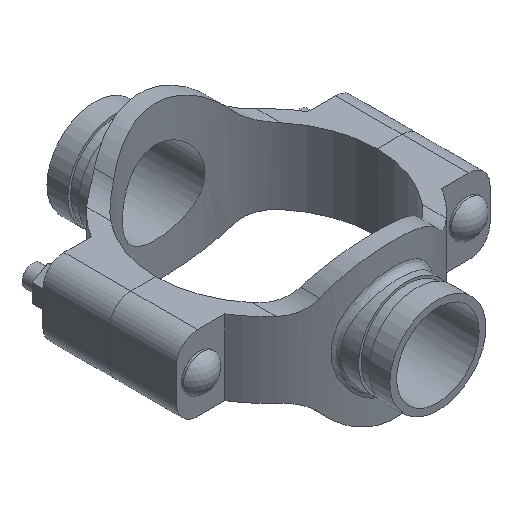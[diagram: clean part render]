
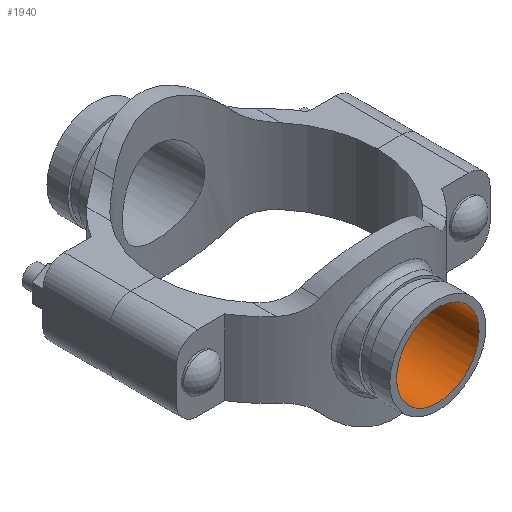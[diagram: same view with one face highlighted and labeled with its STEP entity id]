
A CAD part, isometric view. The second image highlights one B-rep face of the part: STEP entity #1940.
In plain terms, the highlighted cylindrical face has radius 31.369 mm (diameter 62.738 mm), a full revolution.
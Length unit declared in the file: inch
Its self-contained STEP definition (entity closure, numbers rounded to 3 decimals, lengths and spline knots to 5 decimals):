
#48=B_SPLINE_CURVE_WITH_KNOTS('',3,(#3908,#3909,#3910,#3911,#3912,#3913,
#3914,#3915,#3916,#3917,#3918,#3919,#3920,#3921,#3922,#3923,#3924,#3925,
#3926,#3927,#3928,#3929,#3930,#3931,#3932,#3933,#3934,#3935,#3936,#3937,
#3938,#3939,#3940,#3941,#3942,#3943,#3944,#3945,#3946,#3947,#3948,#3949,
#3950,#3951,#3952,#3953,#3954,#3955,#3956,#3957,#3958,#3959,#3960,#3961,
#3962,#3963,#3964,#3965,#3966,#3967,#3968,#3969,#3970,#3971,#3972,#3973),
 .UNSPECIFIED.,.T.,.F.,(4,2,2,2,2,2,2,2,2,2,2,2,2,2,2,2,2,2,2,2,2,2,2,2,
2,2,2,2,2,2,2,2,4),(0.,0.59734,1.19468,1.79201,
2.38935,2.98625,3.58314,4.18003,4.77692,
5.37381,5.97071,6.5676,7.16449,7.76183,
8.35917,8.9565,9.55384,10.15118,10.74852,
11.34586,11.9432,12.54009,13.13698,13.73387,
14.33076,14.92766,15.52455,16.12144,16.71833,
17.31567,17.91301,18.51035,19.10769),
 .UNSPECIFIED.);
#91=CYLINDRICAL_SURFACE('',#2173,1.235);
#206=FACE_OUTER_BOUND('',#326,.T.);
#326=EDGE_LOOP('',(#1556,#1557,#1558,#1559));
#474=LINE('',#3907,#620);
#620=VECTOR('',#2628,1.235);
#720=CIRCLE('',#2174,1.235);
#881=VERTEX_POINT('',#3904);
#882=VERTEX_POINT('',#3906);
#1120=EDGE_CURVE('',#881,#881,#720,.T.);
#1121=EDGE_CURVE('',#881,#882,#474,.T.);
#1122=EDGE_CURVE('',#882,#882,#48,.T.);
#1556=ORIENTED_EDGE('',*,*,#1120,.F.);
#1557=ORIENTED_EDGE('',*,*,#1121,.T.);
#1558=ORIENTED_EDGE('',*,*,#1122,.F.);
#1559=ORIENTED_EDGE('',*,*,#1121,.F.);
#1940=ADVANCED_FACE('',(#206),#91,.F.);
#2173=AXIS2_PLACEMENT_3D('',#3903,#2624,#2625);
#2174=AXIS2_PLACEMENT_3D('',#3905,#2626,#2627);
#2624=DIRECTION('center_axis',(0.,-1.,0.));
#2625=DIRECTION('ref_axis',(-1.,0.,0.));
#2626=DIRECTION('center_axis',(0.,-1.,0.));
#2627=DIRECTION('ref_axis',(-1.,0.,0.));
#2628=DIRECTION('',(0.,-1.,0.));
#3903=CARTESIAN_POINT('Origin',(0.,5.13,0.));
#3904=CARTESIAN_POINT('',(1.235,5.13,0.));
#3905=CARTESIAN_POINT('Origin',(0.,5.13,0.));
#3906=CARTESIAN_POINT('',(1.235,3.07367,0.));
#3907=CARTESIAN_POINT('',(1.235,5.13,0.));
#3908=CARTESIAN_POINT('Ctrl Pts',(1.235,3.07367,0.));
#3909=CARTESIAN_POINT('Ctrl Pts',(1.235,3.07367,-0.07839));
#3910=CARTESIAN_POINT('Ctrl Pts',(1.22742,3.07675,-0.15918));
#3911=CARTESIAN_POINT('Ctrl Pts',(1.19578,3.08918,-0.31937));
#3912=CARTESIAN_POINT('Ctrl Pts',(1.17174,3.09852,-0.39878));
#3913=CARTESIAN_POINT('Ctrl Pts',(1.1085,3.1217,-0.55065));
#3914=CARTESIAN_POINT('Ctrl Pts',(1.06926,3.13554,-0.62326));
#3915=CARTESIAN_POINT('Ctrl Pts',(0.97886,3.16492,-0.75736));
#3916=CARTESIAN_POINT('Ctrl Pts',(0.9277,3.18044,-0.81885));
#3917=CARTESIAN_POINT('Ctrl Pts',(0.81889,3.21018,-0.92766));
#3918=CARTESIAN_POINT('Ctrl Pts',(0.75742,3.22547,-0.97882));
#3919=CARTESIAN_POINT('Ctrl Pts',(0.62331,3.25405,-1.06923));
#3920=CARTESIAN_POINT('Ctrl Pts',(0.55067,3.26731,-1.10849));
#3921=CARTESIAN_POINT('Ctrl Pts',(0.39873,3.28931,-1.17175));
#3922=CARTESIAN_POINT('Ctrl Pts',(0.3193,3.29805,-1.1958));
#3923=CARTESIAN_POINT('Ctrl Pts',(0.1591,3.30965,-1.22743));
#3924=CARTESIAN_POINT('Ctrl Pts',(0.07833,3.3125,-1.235));
#3925=CARTESIAN_POINT('Ctrl Pts',(-0.07833,3.3125,-1.235));
#3926=CARTESIAN_POINT('Ctrl Pts',(-0.1591,3.30965,-1.22743));
#3927=CARTESIAN_POINT('Ctrl Pts',(-0.3193,3.29805,-1.1958));
#3928=CARTESIAN_POINT('Ctrl Pts',(-0.39873,3.28931,-1.17175));
#3929=CARTESIAN_POINT('Ctrl Pts',(-0.55067,3.26731,-1.10849));
#3930=CARTESIAN_POINT('Ctrl Pts',(-0.62331,3.25405,-1.06923));
#3931=CARTESIAN_POINT('Ctrl Pts',(-0.75742,3.22547,-0.97882));
#3932=CARTESIAN_POINT('Ctrl Pts',(-0.81889,3.21018,-0.92766));
#3933=CARTESIAN_POINT('Ctrl Pts',(-0.9277,3.18044,-0.81885));
#3934=CARTESIAN_POINT('Ctrl Pts',(-0.97886,3.16492,-0.75736));
#3935=CARTESIAN_POINT('Ctrl Pts',(-1.06926,3.13554,-0.62326));
#3936=CARTESIAN_POINT('Ctrl Pts',(-1.1085,3.1217,-0.55065));
#3937=CARTESIAN_POINT('Ctrl Pts',(-1.17174,3.09852,-0.39878));
#3938=CARTESIAN_POINT('Ctrl Pts',(-1.19578,3.08918,-0.31937));
#3939=CARTESIAN_POINT('Ctrl Pts',(-1.22742,3.07675,-0.15918));
#3940=CARTESIAN_POINT('Ctrl Pts',(-1.235,3.07367,-0.07839));
#3941=CARTESIAN_POINT('Ctrl Pts',(-1.235,3.07367,0.07839));
#3942=CARTESIAN_POINT('Ctrl Pts',(-1.22742,3.07675,0.15918));
#3943=CARTESIAN_POINT('Ctrl Pts',(-1.19578,3.08918,0.31937));
#3944=CARTESIAN_POINT('Ctrl Pts',(-1.17174,3.09852,0.39878));
#3945=CARTESIAN_POINT('Ctrl Pts',(-1.1085,3.1217,0.55065));
#3946=CARTESIAN_POINT('Ctrl Pts',(-1.06926,3.13554,0.62326));
#3947=CARTESIAN_POINT('Ctrl Pts',(-0.97886,3.16492,0.75736));
#3948=CARTESIAN_POINT('Ctrl Pts',(-0.9277,3.18044,0.81885));
#3949=CARTESIAN_POINT('Ctrl Pts',(-0.81889,3.21018,0.92766));
#3950=CARTESIAN_POINT('Ctrl Pts',(-0.75742,3.22547,0.97882));
#3951=CARTESIAN_POINT('Ctrl Pts',(-0.62331,3.25405,1.06923));
#3952=CARTESIAN_POINT('Ctrl Pts',(-0.55067,3.26731,1.10849));
#3953=CARTESIAN_POINT('Ctrl Pts',(-0.39873,3.28931,1.17175));
#3954=CARTESIAN_POINT('Ctrl Pts',(-0.3193,3.29805,1.1958));
#3955=CARTESIAN_POINT('Ctrl Pts',(-0.1591,3.30965,1.22743));
#3956=CARTESIAN_POINT('Ctrl Pts',(-0.07833,3.3125,1.235));
#3957=CARTESIAN_POINT('Ctrl Pts',(0.07833,3.3125,1.235));
#3958=CARTESIAN_POINT('Ctrl Pts',(0.1591,3.30965,1.22743));
#3959=CARTESIAN_POINT('Ctrl Pts',(0.3193,3.29805,1.1958));
#3960=CARTESIAN_POINT('Ctrl Pts',(0.39873,3.28931,1.17175));
#3961=CARTESIAN_POINT('Ctrl Pts',(0.55067,3.26731,1.10849));
#3962=CARTESIAN_POINT('Ctrl Pts',(0.62331,3.25405,1.06923));
#3963=CARTESIAN_POINT('Ctrl Pts',(0.75742,3.22547,0.97882));
#3964=CARTESIAN_POINT('Ctrl Pts',(0.81889,3.21018,0.92766));
#3965=CARTESIAN_POINT('Ctrl Pts',(0.9277,3.18044,0.81885));
#3966=CARTESIAN_POINT('Ctrl Pts',(0.97886,3.16492,0.75736));
#3967=CARTESIAN_POINT('Ctrl Pts',(1.06926,3.13554,0.62326));
#3968=CARTESIAN_POINT('Ctrl Pts',(1.1085,3.1217,0.55065));
#3969=CARTESIAN_POINT('Ctrl Pts',(1.17174,3.09852,0.39878));
#3970=CARTESIAN_POINT('Ctrl Pts',(1.19578,3.08918,0.31937));
#3971=CARTESIAN_POINT('Ctrl Pts',(1.22742,3.07675,0.15918));
#3972=CARTESIAN_POINT('Ctrl Pts',(1.235,3.07367,0.07839));
#3973=CARTESIAN_POINT('Ctrl Pts',(1.235,3.07367,0.));
